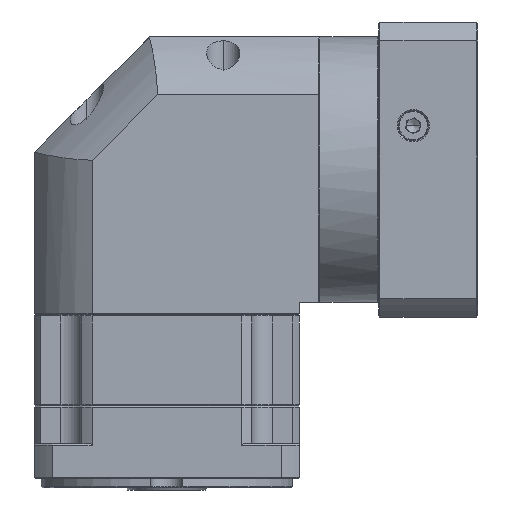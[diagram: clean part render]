
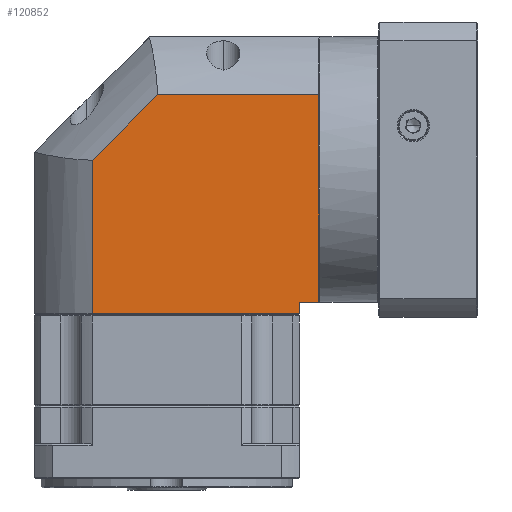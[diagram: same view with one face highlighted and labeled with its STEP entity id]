
A CAD part, front view. The second image highlights one B-rep face of the part: STEP entity #120852.
In plain terms, the highlighted planar face has unit normal (0, -1, 0).
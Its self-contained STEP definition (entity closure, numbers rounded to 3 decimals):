
#4806 = LINE ( 'NONE', #84758, #41541 ) ;
#10089 = FACE_OUTER_BOUND ( 'NONE', #49225, .T. ) ;
#12097 = CARTESIAN_POINT ( 'NONE',  ( 108.332, 1.007, 34.177 ) ) ;
#13723 = ORIENTED_EDGE ( 'NONE', *, *, #67773, .F. ) ;
#18467 = VERTEX_POINT ( 'NONE', #75522 ) ;
#18979 = AXIS2_PLACEMENT_3D ( 'NONE', #50714, #110535, #79726 ) ;
#21545 = LINE ( 'NONE', #46252, #121863 ) ;
#29005 = PLANE ( 'NONE',  #18979 ) ;
#29250 = CARTESIAN_POINT ( 'NONE',  ( 10.033, 1.007, 5.839 ) ) ;
#31280 = VERTEX_POINT ( 'NONE', #12097 ) ;
#32561 = VECTOR ( 'NONE', #112059, 1000. ) ;
#38896 = DIRECTION ( 'NONE',  ( -1., 0., 0. ) ) ;
#38957 = ORIENTED_EDGE ( 'NONE', *, *, #100717, .F. ) ;
#41541 = VECTOR ( 'NONE', #95935, 1000. ) ;
#45917 = ORIENTED_EDGE ( 'NONE', *, *, #63082, .F. ) ;
#46252 = CARTESIAN_POINT ( 'NONE',  ( 10.033, 1.007, 5.839 ) ) ;
#49225 = EDGE_LOOP ( 'NONE', ( #130831, #38957, #93034, #96860, #13723, #45917, #122082 ) ) ;
#49759 = LINE ( 'NONE', #106531, #71966 ) ;
#50083 = CARTESIAN_POINT ( 'NONE',  ( 99.932, 1.007, -67.223 ) ) ;
#50599 = EDGE_CURVE ( 'NONE', #31280, #18467, #92274, .T. ) ;
#50714 = CARTESIAN_POINT ( 'NONE',  ( -15.068, 1.007, -67.223 ) ) ;
#51233 = VECTOR ( 'NONE', #38896, 1000. ) ;
#51696 = VERTEX_POINT ( 'NONE', #89577 ) ;
#58465 = EDGE_CURVE ( 'NONE', #51696, #84738, #59549, .T. ) ;
#59549 = LINE ( 'NONE', #50083, #32561 ) ;
#60330 = EDGE_CURVE ( 'NONE', #109035, #31280, #129636, .T. ) ;
#63082 = EDGE_CURVE ( 'NONE', #69592, #95452, #4806, .T. ) ;
#66270 = DIRECTION ( 'NONE',  ( -1., 0., 0. ) ) ;
#67042 = CARTESIAN_POINT ( 'NONE',  ( 38.371, 1.007, 34.177 ) ) ;
#67773 = EDGE_CURVE ( 'NONE', #95452, #109035, #21545, .T. ) ;
#69177 = DIRECTION ( 'NONE',  ( 0., 0., -1. ) ) ;
#69592 = VERTEX_POINT ( 'NONE', #105992 ) ;
#71966 = VECTOR ( 'NONE', #66270, 1000. ) ;
#73466 = LINE ( 'NONE', #78923, #51233 ) ;
#75522 = CARTESIAN_POINT ( 'NONE',  ( 108.332, 1.007, -55.723 ) ) ;
#78923 = CARTESIAN_POINT ( 'NONE',  ( -15.068, 1.007, -55.723 ) ) ;
#79726 = DIRECTION ( 'NONE',  ( 1., 0., 0. ) ) ;
#84738 = VERTEX_POINT ( 'NONE', #95983 ) ;
#84758 = CARTESIAN_POINT ( 'NONE',  ( 10.033, 1.007, -67.223 ) ) ;
#89577 = CARTESIAN_POINT ( 'NONE',  ( 99.932, 1.007, -55.723 ) ) ;
#92274 = LINE ( 'NONE', #118733, #105097 ) ;
#93034 = ORIENTED_EDGE ( 'NONE', *, *, #50599, .F. ) ;
#95452 = VERTEX_POINT ( 'NONE', #29250 ) ;
#95935 = DIRECTION ( 'NONE',  ( 0., 0., 1. ) ) ;
#95983 = CARTESIAN_POINT ( 'NONE',  ( 99.932, 1.007, -60.723 ) ) ;
#96860 = ORIENTED_EDGE ( 'NONE', *, *, #60330, .F. ) ;
#100717 = EDGE_CURVE ( 'NONE', #18467, #51696, #73466, .T. ) ;
#105097 = VECTOR ( 'NONE', #69177, 1000. ) ;
#105811 = VECTOR ( 'NONE', #108106, 1000. ) ;
#105992 = CARTESIAN_POINT ( 'NONE',  ( 10.033, 1.007, -60.723 ) ) ;
#106531 = CARTESIAN_POINT ( 'NONE',  ( -15.068, 1.007, -60.723 ) ) ;
#108106 = DIRECTION ( 'NONE',  ( 1., 0., 0. ) ) ;
#109035 = VERTEX_POINT ( 'NONE', #67042 ) ;
#109824 = CARTESIAN_POINT ( 'NONE',  ( -15.068, 1.007, 34.177 ) ) ;
#110535 = DIRECTION ( 'NONE',  ( 0., 1., 0. ) ) ;
#112059 = DIRECTION ( 'NONE',  ( 0., 0., -1. ) ) ;
#118733 = CARTESIAN_POINT ( 'NONE',  ( 108.332, 1.007, -67.223 ) ) ;
#120852 = ADVANCED_FACE ( 'NONE', ( #10089 ), #29005, .F. ) ;
#121863 = VECTOR ( 'NONE', #129072, 1000. ) ;
#122082 = ORIENTED_EDGE ( 'NONE', *, *, #124619, .F. ) ;
#124619 = EDGE_CURVE ( 'NONE', #84738, #69592, #49759, .T. ) ;
#129072 = DIRECTION ( 'NONE',  ( 0.707, 0., 0.707 ) ) ;
#129636 = LINE ( 'NONE', #109824, #105811 ) ;
#130831 = ORIENTED_EDGE ( 'NONE', *, *, #58465, .F. ) ;
